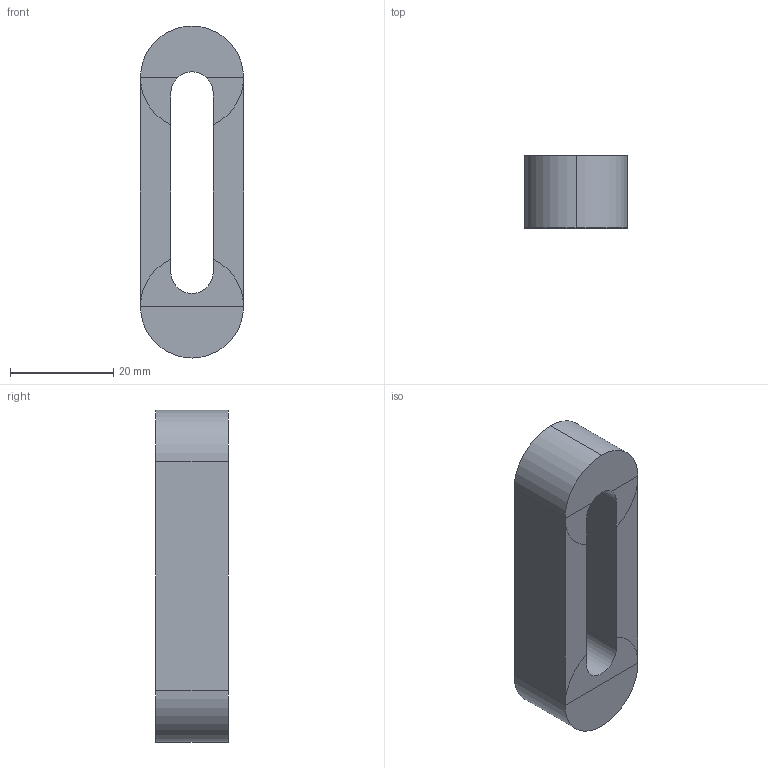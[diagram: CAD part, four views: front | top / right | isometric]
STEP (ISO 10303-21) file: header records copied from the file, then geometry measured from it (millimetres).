
FILE_DESCRIPTION(('Open CASCADE Model'),'2;1');
FILE_NAME('Open CASCADE Shape Model','2026-10-20T13:19:34',('Author'),( 'Open CASCADE'),'Open CASCADE STEP processor 7.9','Open CASCADE 7.9' ,'Unknown');
FILE_SCHEMA(('AUTOMOTIVE_DESIGN { 1 0 10303 214 1 1 1 1 }'));
Length unit declared in the file: millimetre
Products named in the file (1): Open CASCADE STEP translator 7.9 22
Bounding box: 20 x 14 x 64.38 mm (x, y, z)
Volume: 12088.8 mm3; surface area: 5184.2 mm2
Topology: 1 solids, 1 shells, 23 faces, 53 edges, 30 vertices
Faces by surface type: plane 18, cylinder 5
Entity records: 1320 total; most frequent: CARTESIAN_POINT 237, DIRECTION 205, ORIENTED_EDGE 106, PCURVE 106, DEFINITIONAL_REPRESENTATION 106, LINE 83, VECTOR 83, EDGE_CURVE 53
